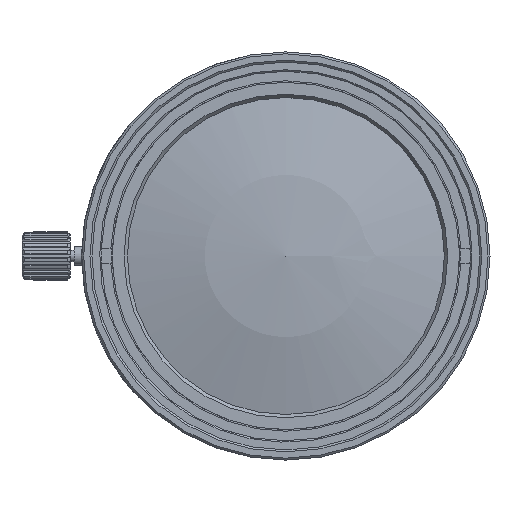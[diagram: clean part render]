
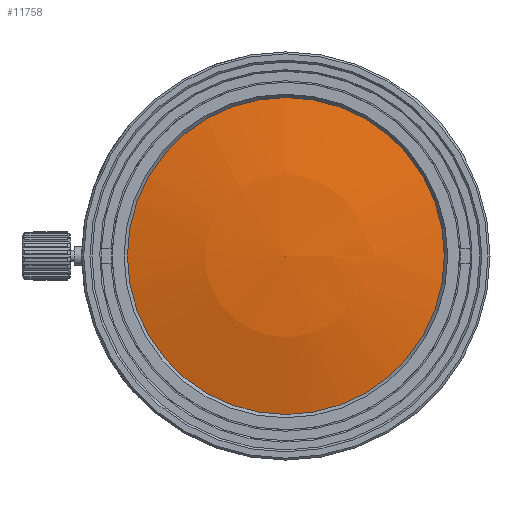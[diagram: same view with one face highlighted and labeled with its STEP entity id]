
A CAD part, left-side view. The second image highlights one B-rep face of the part: STEP entity #11758.
In plain terms, the highlighted spherical face has radius 64.202 mm.
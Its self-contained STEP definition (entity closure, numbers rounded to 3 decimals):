
#108=SPHERICAL_SURFACE('',#26318,64.202);
#2201=FACE_OUTER_BOUND('',#13333,.T.);
#11758=ADVANCED_FACE('',(#2201),#108,.T.);
#13333=EDGE_LOOP('',(#17878));
#17878=ORIENTED_EDGE('',*,*,#23726,.F.);
#21082=VERTEX_POINT('',#47014);
#23726=EDGE_CURVE('',#21082,#21082,#24822,.T.);
#24822=CIRCLE('',#26260,16.59);
#26260=AXIS2_PLACEMENT_3D('',#47013,#30146,#30147);
#26318=AXIS2_PLACEMENT_3D('',#47078,#30262,#30263);
#30146=DIRECTION('',(1.,0.,0.));
#30147=DIRECTION('',(0.,0.,-1.));
#30262=DIRECTION('',(-1.,0.,0.));
#30263=DIRECTION('',(0.,-1.,0.));
#47013=CARTESIAN_POINT('',(-71.203,-0.032,0.));
#47014=CARTESIAN_POINT('',(-71.203,-0.032,-16.59));
#47078=CARTESIAN_POINT('',(-9.181,-0.032,0.));
